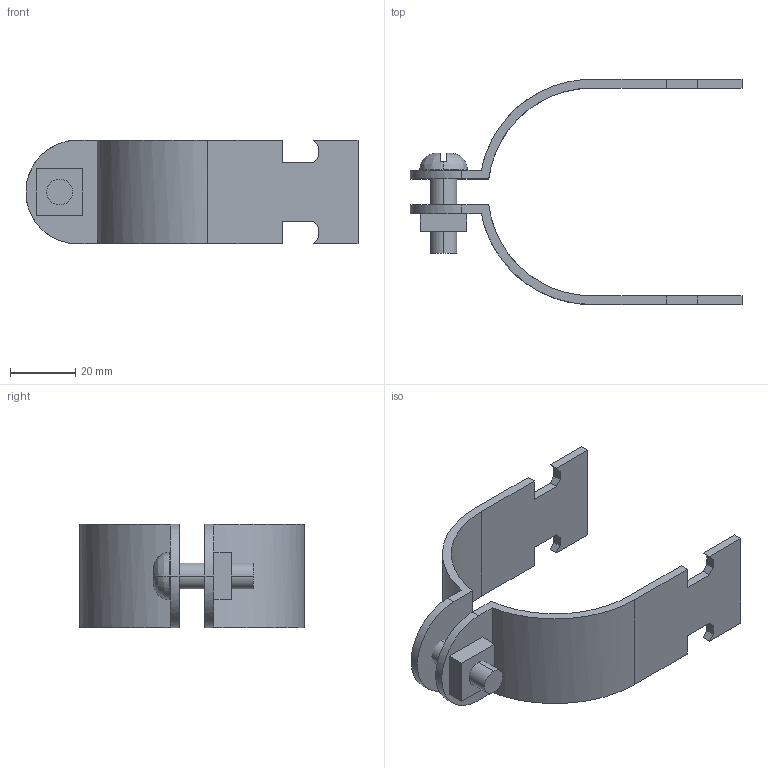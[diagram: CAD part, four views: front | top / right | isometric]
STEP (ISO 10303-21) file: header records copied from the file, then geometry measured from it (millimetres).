
FILE_DESCRIPTION(('TurboCAD Mac Pro'),'Build 980');
FILE_NAME('P2042.stp',' ',(''),(''),'ACIS Interop','IMSI','TurboCAD Mac Pro BY IMSI, INCORPORATED');
FILE_SCHEMA(('automotive_design'));
Length unit declared in the file: inch
Products named in the file (5): 1; 2; 3; 4; 5
Bounding box: 101.6 x 68.89 x 31.74 mm (x, y, z)
Volume: 20938 mm3; surface area: 17225.5 mm2
Topology: 4 solids, 4 shells, 75 faces, 194 edges, 128 vertices
Faces by surface type: plane 51, bspline 24
Entity records: 3631 total; most frequent: CARTESIAN_POINT 1138, ORIENTED_EDGE 388, DIRECTION 262, EDGE_CURVE 194, LINE 142, VECTOR 142, VERTEX_POINT 128, STYLED_ITEM 91
